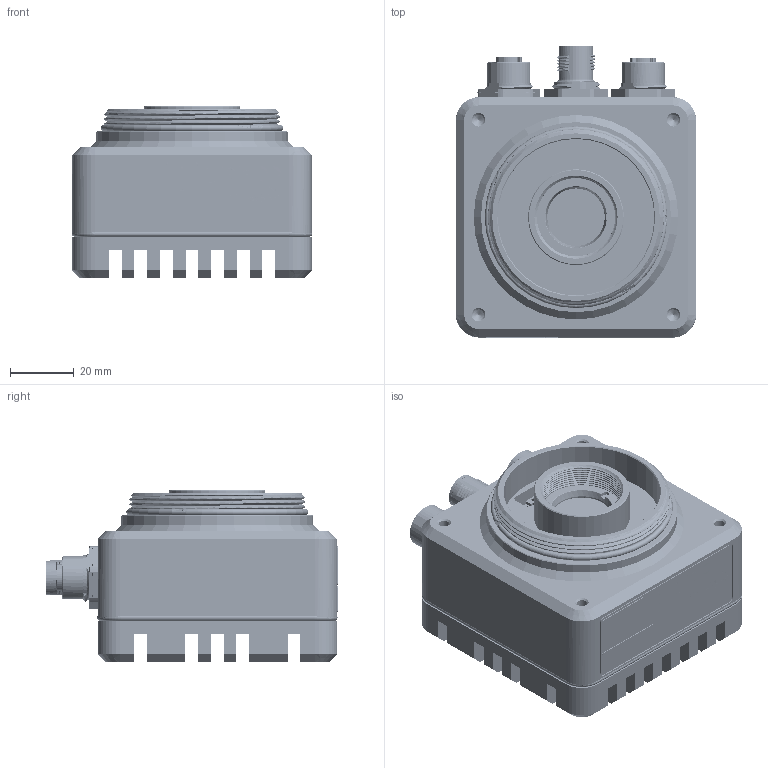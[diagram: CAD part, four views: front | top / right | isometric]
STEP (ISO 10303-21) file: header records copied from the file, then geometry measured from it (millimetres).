
FILE_DESCRIPTION((''),'2;1');
FILE_NAME('TLA_NI_7_7_2017','2017-07-12T',('dkendric'),(''),'CREO PARAMETRIC BY PTC INC, 2015380','CREO PARAMETRIC BY PTC INC, 2015380','');
FILE_SCHEMA(('CONFIG_CONTROL_DESIGN'));
Products named in the file (1): TLA_NI_7_7_2017
Bounding box: 75.28 x 91.15 x 54 mm (x, y, z)
Volume: 95863.8 mm3; surface area: 81306.8 mm2
Topology: 4 solids, 114 shells, 3223 faces, 9246 edges, 6286 vertices
Faces by surface type: plane 1307, cylinder 1156, cone 304, torus 200, bspline 196, sphere 57, revolution 2, extrusion 1
Entity records: 150494 total; most frequent: CARTESIAN_POINT 69117, ORIENTED_EDGE 17895, DIRECTION 15403, EDGE_CURVE 9109, VERTEX_POINT 6286, AXIS2_PLACEMENT_3D 5580, VECTOR 4241, LINE 4240
